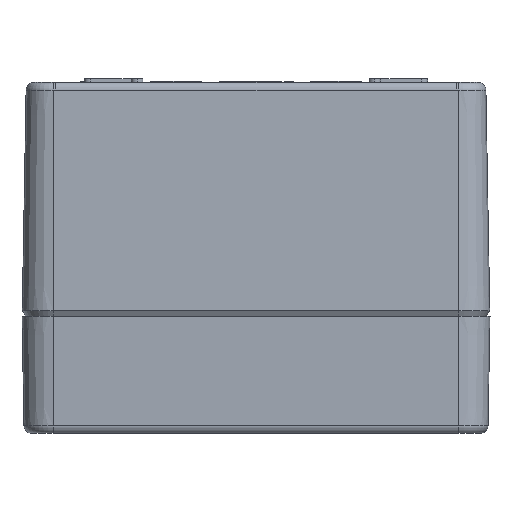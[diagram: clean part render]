
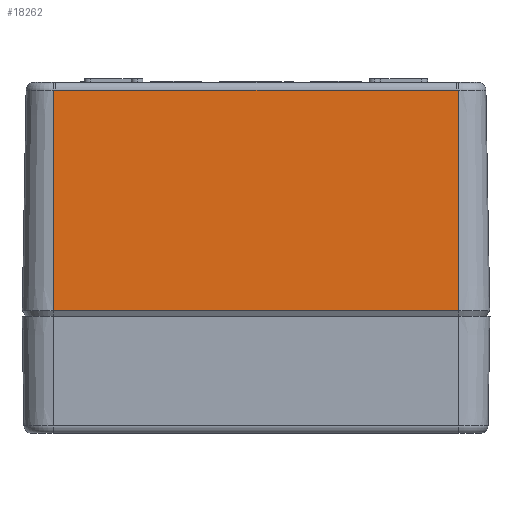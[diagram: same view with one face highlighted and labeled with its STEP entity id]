
A CAD part, left-side view. The second image highlights one B-rep face of the part: STEP entity #18262.
In plain terms, the highlighted planar face has unit normal (-1, 0, 0.018).
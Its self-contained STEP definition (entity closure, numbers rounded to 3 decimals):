
#83 = LINE ( 'NONE', #36375, #14108 ) ;
#305 = ORIENTED_EDGE ( 'NONE', *, *, #35543, .T. ) ;
#413 = CARTESIAN_POINT ( 'NONE',  ( -59.952, 52., 60.035 ) ) ;
#509 = DIRECTION ( 'NONE',  ( -1., 0., 0.017 ) ) ;
#526 = EDGE_LOOP ( 'NONE', ( #9607, #16883, #6500, #305, #22150, #20380 ) ) ;
#1948 = VERTEX_POINT ( 'NONE', #37909 ) ;
#5942 = CARTESIAN_POINT ( 'NONE',  ( -59.952, -52., 60.035 ) ) ;
#6059 = CARTESIAN_POINT ( 'NONE',  ( -59.952, 51.312, 60.035 ) ) ;
#6227 = CARTESIAN_POINT ( 'NONE',  ( -59.952, -51.541, 60.035 ) ) ;
#6389 = CARTESIAN_POINT ( 'NONE',  ( -60.939, 52., 3.5 ) ) ;
#6500 = ORIENTED_EDGE ( 'NONE', *, *, #26882, .F. ) ;
#6652 = DIRECTION ( 'NONE',  ( -0.017, 0., -1. ) ) ;
#8601 = VERTEX_POINT ( 'NONE', #41259 ) ;
#9607 = ORIENTED_EDGE ( 'NONE', *, *, #13905, .T. ) ;
#12952 = CARTESIAN_POINT ( 'NONE',  ( -59.952, -51.771, 60.035 ) ) ;
#13258 = PLANE ( 'NONE',  #20260 ) ;
#13385 = LINE ( 'NONE', #23735, #22862 ) ;
#13905 = EDGE_CURVE ( 'NONE', #1948, #41253, #29600, .T. ) ;
#14108 = VECTOR ( 'NONE', #39309, 1000. ) ;
#16883 = ORIENTED_EDGE ( 'NONE', *, *, #39442, .T. ) ;
#17492 = B_SPLINE_CURVE_WITH_KNOTS ( 'NONE', 3,
 ( #5942, #12952, #6227, #25500 ),
 .UNSPECIFIED., .F., .F.,
 ( 4, 4 ),
 ( 0., 0.001 ),
 .UNSPECIFIED. ) ;
#17625 = VECTOR ( 'NONE', #6652, 1000. ) ;
#18030 = VERTEX_POINT ( 'NONE', #31920 ) ;
#18262 = ADVANCED_FACE ( 'NONE', ( #31918 ), #13258, .T. ) ;
#19590 = CARTESIAN_POINT ( 'NONE',  ( -59.952, 51.771, 60.035 ) ) ;
#20260 = AXIS2_PLACEMENT_3D ( 'NONE', #38810, #509, #35860 ) ;
#20380 = ORIENTED_EDGE ( 'NONE', *, *, #32347, .T. ) ;
#22150 = ORIENTED_EDGE ( 'NONE', *, *, #34678, .T. ) ;
#22855 = CARTESIAN_POINT ( 'NONE',  ( -61., 52., 0. ) ) ;
#22862 = VECTOR ( 'NONE', #33370, 1000. ) ;
#23334 = VERTEX_POINT ( 'NONE', #35265 ) ;
#23536 = CARTESIAN_POINT ( 'NONE',  ( -61., -52., 0. ) ) ;
#23591 = B_SPLINE_CURVE_WITH_KNOTS ( 'NONE', 3,
 ( #35345, #35752, #19590, #413 ),
 .UNSPECIFIED., .F., .F.,
 ( 4, 4 ),
 ( 0., 0.001 ),
 .UNSPECIFIED. ) ;
#23735 = CARTESIAN_POINT ( 'NONE',  ( -59.952, 52., 60.035 ) ) ;
#25500 = CARTESIAN_POINT ( 'NONE',  ( -59.952, -51.312, 60.035 ) ) ;
#25949 = VERTEX_POINT ( 'NONE', #6059 ) ;
#26882 = EDGE_CURVE ( 'NONE', #18030, #23334, #30771, .T. ) ;
#29600 = LINE ( 'NONE', #22855, #17625 ) ;
#29774 = VECTOR ( 'NONE', #36132, 1000. ) ;
#30771 = LINE ( 'NONE', #23536, #29774 ) ;
#31918 = FACE_OUTER_BOUND ( 'NONE', #526, .T. ) ;
#31920 = CARTESIAN_POINT ( 'NONE',  ( -59.952, -52., 60.035 ) ) ;
#32347 = EDGE_CURVE ( 'NONE', #25949, #1948, #23591, .T. ) ;
#33370 = DIRECTION ( 'NONE',  ( 0., 1., 0. ) ) ;
#34678 = EDGE_CURVE ( 'NONE', #8601, #25949, #13385, .T. ) ;
#35265 = CARTESIAN_POINT ( 'NONE',  ( -60.939, -52., 3.5 ) ) ;
#35345 = CARTESIAN_POINT ( 'NONE',  ( -59.952, 51.312, 60.035 ) ) ;
#35543 = EDGE_CURVE ( 'NONE', #18030, #8601, #17492, .T. ) ;
#35752 = CARTESIAN_POINT ( 'NONE',  ( -59.952, 51.541, 60.035 ) ) ;
#35860 = DIRECTION ( 'NONE',  ( 0.017, 0., 1. ) ) ;
#36132 = DIRECTION ( 'NONE',  ( -0.017, 0., -1. ) ) ;
#36375 = CARTESIAN_POINT ( 'NONE',  ( -60.939, -52., 3.5 ) ) ;
#37909 = CARTESIAN_POINT ( 'NONE',  ( -59.952, 52., 60.035 ) ) ;
#38810 = CARTESIAN_POINT ( 'NONE',  ( -61., 52., 0. ) ) ;
#39309 = DIRECTION ( 'NONE',  ( 0., -1., 0. ) ) ;
#39442 = EDGE_CURVE ( 'NONE', #41253, #23334, #83, .T. ) ;
#41253 = VERTEX_POINT ( 'NONE', #6389 ) ;
#41259 = CARTESIAN_POINT ( 'NONE',  ( -59.952, -51.312, 60.035 ) ) ;
